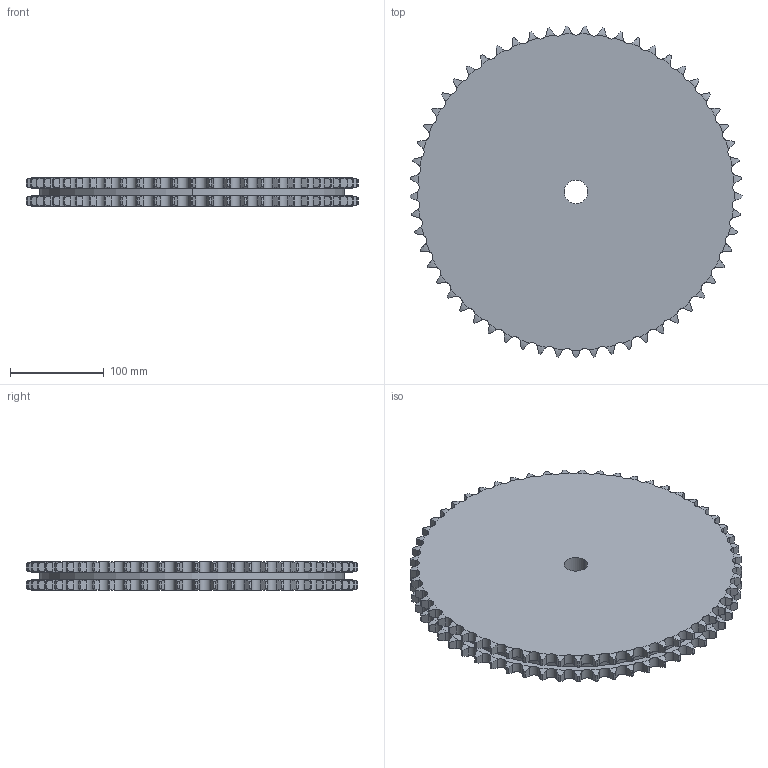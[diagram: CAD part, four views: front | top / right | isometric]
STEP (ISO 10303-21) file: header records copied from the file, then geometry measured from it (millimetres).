
FILE_DESCRIPTION((''),'2;1');
FILE_NAME('500-402-0057_PRT','2021-02-12T',('Brieden'),('Brieden'),'PRO/ENGINEER BY PARAMETRIC TECHNOLOGY CORPORATION, 2010160','PRO/ENGINEER BY PARAMETRIC TECHNOLOGY CORPORATION, 2010160','');
FILE_SCHEMA(('AUTOMOTIVE_DESIGN { 1 0 10303 214 1 1 1 1 }'));
Length unit declared in the file: millimetre
Products named in the file (1): 500-402-0057_PRT
Bounding box: 353.24 x 353.11 x 30.3 mm (x, y, z)
Volume: 2676419.5 mm3; surface area: 244849.9 mm2
Topology: 1 solids, 1 shells, 692 faces, 2064 edges, 1376 vertices
Faces by surface type: cylinder 460, torus 228, plane 4
Entity records: 34176 total; most frequent: CARTESIAN_POINT 10429, ORIENTED_EDGE 4128, DIRECTION 3228, PRESENTATION_STYLE_ASSIGNMENT 2065, STYLED_ITEM 2065, CURVE_STYLE 2064, EDGE_CURVE 2064, AXIS2_PLACEMENT_3D 1384
